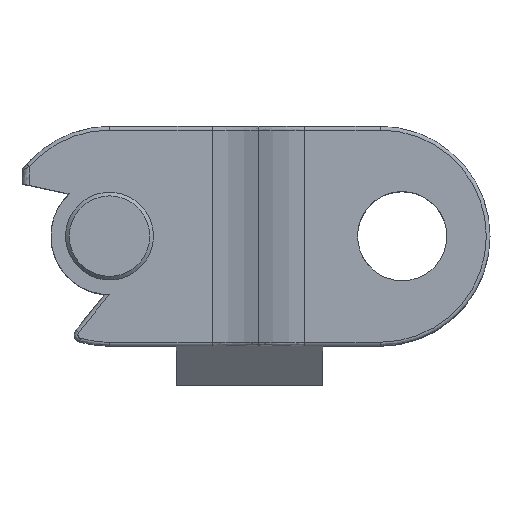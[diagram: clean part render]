
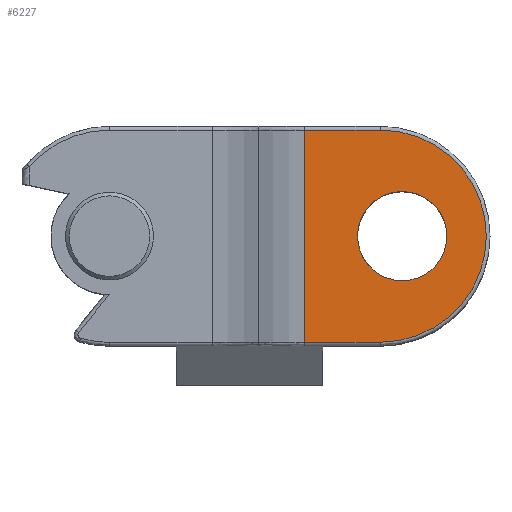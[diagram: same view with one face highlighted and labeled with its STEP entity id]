
A CAD part, top view. The second image highlights one B-rep face of the part: STEP entity #6227.
In plain terms, the highlighted free-form (B-spline) face has degree [1, 1] with [2, 2] control points.
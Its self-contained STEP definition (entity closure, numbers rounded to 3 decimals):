
#3804=CARTESIAN_POINT('',(140.42,190.463,0.0));
#3805=VERTEX_POINT('',#3804);
#3851=CARTESIAN_POINT('',(145.596,190.463,0.0));
#3852=VERTEX_POINT('',#3851);
#3862=CARTESIAN_POINT('',(145.596,190.463,0.0));
#3863=DIRECTION('',(-1.0,0.0,0.0));
#3864=VECTOR('',#3863,5.176);
#3865=LINE('',#3862,#3864);
#3866=EDGE_CURVE('',#3852,#3805,#3865,.T.);
#3924=CARTESIAN_POINT('',(145.596,175.963,0.0));
#3925=VERTEX_POINT('',#3924);
#3935=CARTESIAN_POINT('',(145.596,183.213,0.0));
#3936=DIRECTION('',(0.0,0.0,1.0));
#3937=DIRECTION('',(1.0,0.0,0.0));
#3938=AXIS2_PLACEMENT_3D('',#3935,#3936,#3937);
#3939=CIRCLE('',#3938,7.25);
#3940=EDGE_CURVE('',#3925,#3852,#3939,.T.);
#3971=CARTESIAN_POINT('',(140.42,175.963,0.0));
#3972=VERTEX_POINT('',#3971);
#3982=CARTESIAN_POINT('',(140.42,175.963,0.0));
#3983=DIRECTION('',(1.0,0.,0.0));
#3984=VECTOR('',#3983,5.176);
#3985=LINE('',#3982,#3984);
#3986=EDGE_CURVE('',#3972,#3925,#3985,.T.);
#4584=CARTESIAN_POINT('',(145.596,185.869,0.0));
#4585=VERTEX_POINT('',#4584);
#4586=CARTESIAN_POINT('',(147.096,183.213,0.0));
#4587=DIRECTION('',(0.0,0.0,1.0));
#4588=DIRECTION('',(-1.0,0.0,0.0));
#4589=AXIS2_PLACEMENT_3D('',#4586,#4587,#4588);
#4590=CIRCLE('',#4589,3.05);
#4591=EDGE_CURVE('',#4585,#4585,#4590,.T.);
#6098=CARTESIAN_POINT('',(140.42,175.963,0.0));
#6099=DIRECTION('',(0.0,1.0,0.0));
#6100=VECTOR('',#6099,14.5);
#6101=LINE('',#6098,#6100);
#6102=EDGE_CURVE('',#3972,#3805,#6101,.T.);
#6213=CARTESIAN_POINT('',(140.42,190.463,0.0));
#6214=CARTESIAN_POINT('',(152.846,190.463,0.0));
#6215=CARTESIAN_POINT('',(140.42,175.963,0.0));
#6216=CARTESIAN_POINT('',(152.846,175.963,0.0));
#6217=B_SPLINE_SURFACE_WITH_KNOTS('',1,1,((#6213,#6215),(#6214,#6216)),.UNSPECIFIED.,.F.,.F.,.U.,(2,2),(2,2),(0.0,12.426),(0.0,14.5),.UNSPECIFIED.);
#6218=ORIENTED_EDGE('',*,*,#3986,.T.);
#6219=ORIENTED_EDGE('',*,*,#3940,.T.);
#6220=ORIENTED_EDGE('',*,*,#3866,.T.);
#6221=ORIENTED_EDGE('',*,*,#6102,.F.);
#6222=EDGE_LOOP('',(#6218,#6219,#6220,#6221));
#6223=FACE_OUTER_BOUND('',#6222,.T.);
#6224=ORIENTED_EDGE('',*,*,#4591,.F.);
#6225=EDGE_LOOP('',(#6224));
#6226=FACE_BOUND('',#6225,.T.);
#6227=ADVANCED_FACE('',(#6223,#6226),#6217,.F.);
